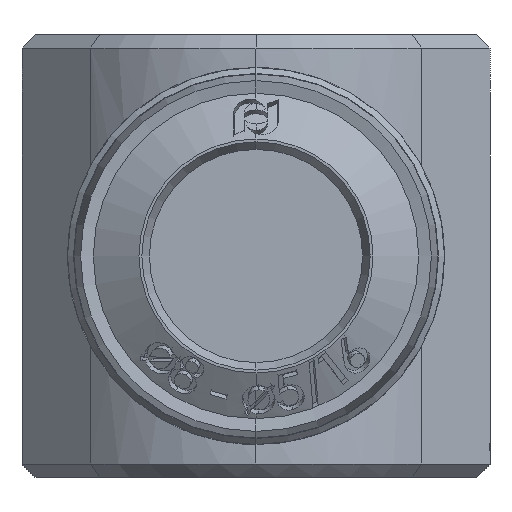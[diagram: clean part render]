
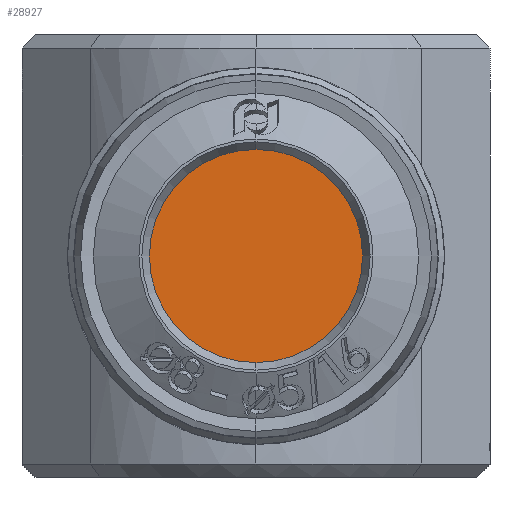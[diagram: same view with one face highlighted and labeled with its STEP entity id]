
A CAD part, left-side view. The second image highlights one B-rep face of the part: STEP entity #28927.
In plain terms, the highlighted planar face has unit normal (-1, 0, 0).
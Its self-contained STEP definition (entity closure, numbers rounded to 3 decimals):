
#2468 = PLANE ( 'NONE',  #3738 ) ;
#2476 = CARTESIAN_POINT ( 'NONE',  ( -41.87, 2.759, -6.988 ) ) ;
#2477 = DIRECTION ( 'NONE',  ( -1., 0., 0. ) ) ;
#2478 = DIRECTION ( 'NONE',  ( 0., -1., 0. ) ) ;
#3738 = AXIS2_PLACEMENT_3D ( 'NONE', #2476, #2477, #2478 ) ;
#6795 = CIRCLE ( 'NONE', #21135, 4.1 ) ;
#8468 = CARTESIAN_POINT ( 'NONE',  ( -41.87, 2.759, -6.988 ) ) ;
#8470 = DIRECTION ( 'NONE',  ( -1., 0., 0. ) ) ;
#8472 = DIRECTION ( 'NONE',  ( 0., 0., 1. ) ) ;
#8976 = VERTEX_POINT ( 'NONE', #31401 ) ;
#8977 = VERTEX_POINT ( 'NONE', #31402 ) ;
#9239 = CARTESIAN_POINT ( 'NONE',  ( -41.87, 2.759, -6.988 ) ) ;
#9240 = DIRECTION ( 'NONE',  ( -1., 0., 0. ) ) ;
#9241 = DIRECTION ( 'NONE',  ( 0., 0., 1. ) ) ;
#9820 = EDGE_LOOP ( 'NONE', ( #29778, #29779 ) ) ;
#14470 = CIRCLE ( 'NONE', #21090, 4.1 ) ;
#18650 = FACE_OUTER_BOUND ( 'NONE', #9820, .T. ) ;
#20998 = EDGE_CURVE ( 'NONE', #8977, #8976, #14470, .T. ) ;
#21090 = AXIS2_PLACEMENT_3D ( 'NONE', #8468, #8470, #8472 ) ;
#21135 = AXIS2_PLACEMENT_3D ( 'NONE', #9239, #9240, #9241 ) ;
#21262 = EDGE_CURVE ( 'NONE', #8976, #8977, #6795, .T. ) ;
#28927 = ADVANCED_FACE ( 'NONE', ( #18650 ), #2468, .T. ) ;
#29778 = ORIENTED_EDGE ( 'NONE', *, *, #21262, .T. ) ;
#29779 = ORIENTED_EDGE ( 'NONE', *, *, #20998, .T. ) ;
#31401 = CARTESIAN_POINT ( 'NONE',  ( -41.87, 2.759, -2.888 ) ) ;
#31402 = CARTESIAN_POINT ( 'NONE',  ( -41.87, 2.759, -11.088 ) ) ;
